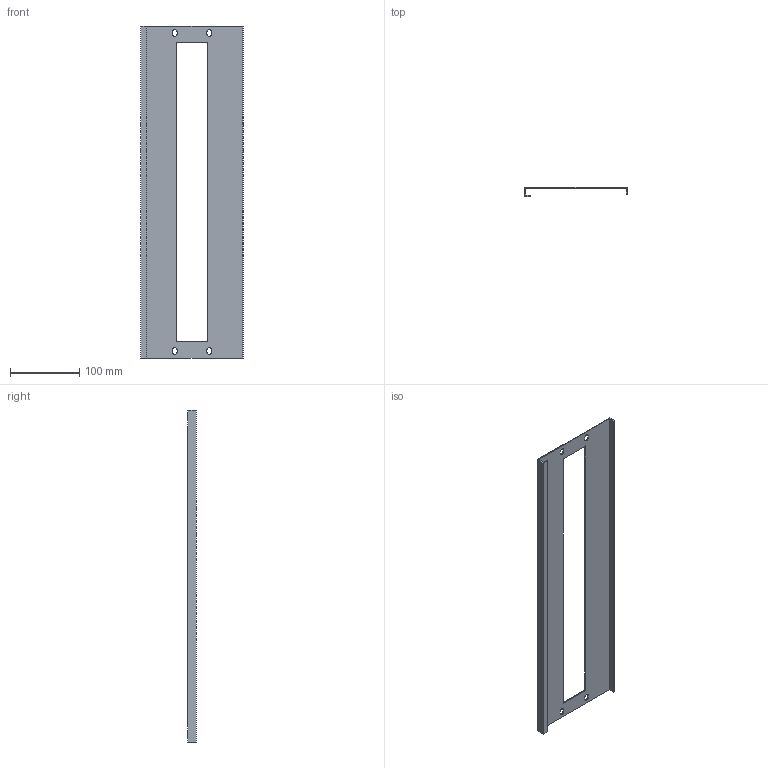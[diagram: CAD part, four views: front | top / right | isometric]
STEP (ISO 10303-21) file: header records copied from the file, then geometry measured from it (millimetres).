
FILE_DESCRIPTION (( 'STEP AP214' ), '1' );
FILE_NAME ('FO-00-PVM-015-060 Ïëàñòðîí äëÿ ìîäóëüíûõ óñòðîéñòâ 150õ600.STEP', '2025-08-26T08:08:59', ( '' ), ( '' ), 'SwSTEP 2.0', 'SolidWorks 2023', '' );
FILE_SCHEMA (( 'AUTOMOTIVE_DESIGN' ));
Length unit declared in the file: millimetre
Products named in the file (1): FO-00-PVM-015-060 Пластрон для модульных устройств 150х600
Bounding box: 148 x 12.5 x 479 mm (x, y, z)
Volume: 95178.1 mm3; surface area: 130463.6 mm2
Topology: 1 solids, 1 shells, 46 faces, 132 edges, 88 vertices
Faces by surface type: plane 34, cylinder 12
Entity records: 1543 total; most frequent: CARTESIAN_POINT 267, ORIENTED_EDGE 264, DIRECTION 250, EDGE_CURVE 132, LINE 108, VECTOR 108, VERTEX_POINT 88, AXIS2_PLACEMENT_3D 71
